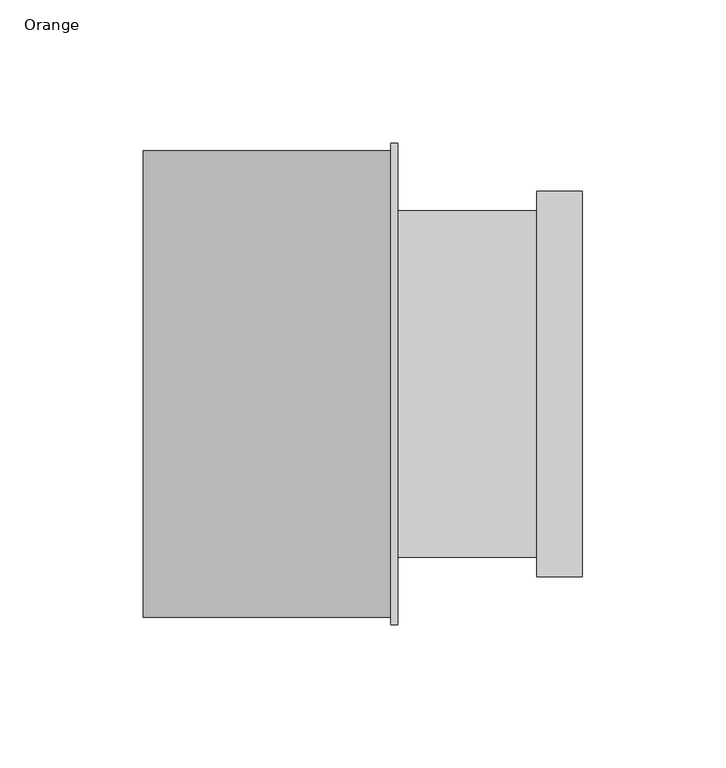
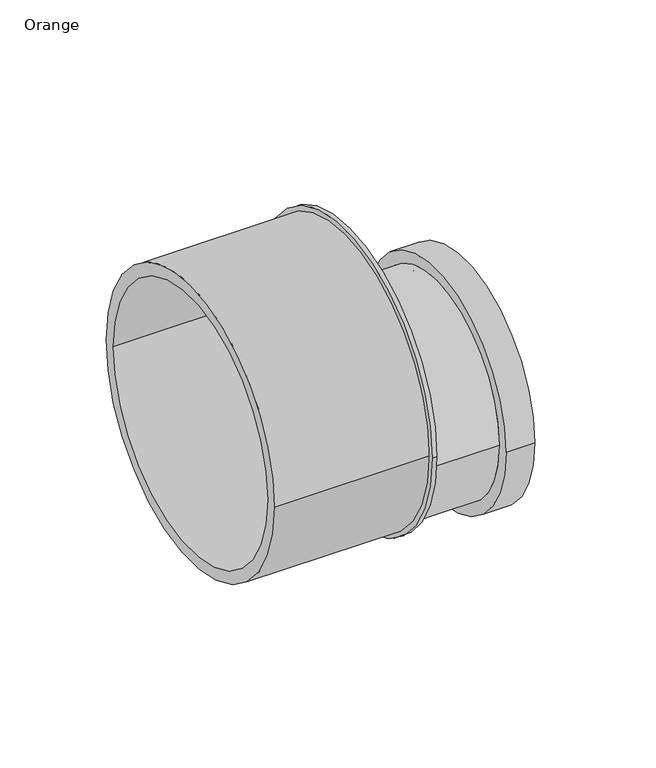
"""IFC4 building model written with IfcOpenShell, lengths in millimetres: pipe fitting geometry, AWADUKT PP Transition : Orange."""

from ifc_helpers import new_model, si_unit, point, frame, frame_2d, origin, origin_2d, place, context, project, spatial, polyline, circle_curve, trimmed, segment, composite_curve, outline, extrude, source, transform, mapped, element, save
from ifc_brep_helpers import plane_surface, cylinder_surface, revolved_surface, advanced_brep


def orange_85c0008d(model_context):
    return source(origin(), model_context, "Body", "SolidModel", [
        extrude(outline(composite_curve([segment(trimmed(circle_curve(origin_2d(), 84.0), [point((-84.0, 0.0))], [point((84.0, 0.0))], False, "CARTESIAN"), True, "CONTINUOUS"), segment(trimmed(circle_curve(origin_2d(), 84.0), [point((84.0, 0.0))], [point((-84.0, 0.0))], False, "CARTESIAN"), True, "CONTINUOUS")], self_intersect=False), holes=[composite_curve([segment(trimmed(circle_curve(frame_2d((0.0, -24.3)), 50.5), [point((-50.5, -24.3))], [point((50.5, -24.3))], True, "CARTESIAN"), True, "CONTINUOUS"), segment(trimmed(circle_curve(frame_2d((0.0, -24.3)), 50.5), [point((50.5, -24.3))], [point((-50.5, -24.3))], True, "CARTESIAN"), True, "CONTINUOUS")], self_intersect=False)]), frame((90.4, 0.0, 0.0), z_axis=(1.0, 0.0, 0.0), x_axis=(0.0, 1.0, 0.0)), (0.0, 0.0, 1.0), 2.5),
        advanced_brep(
        [(141.275, -60.5, -24.3), (141.275, 60.5, -24.3), (92.9, 60.5, -24.3), (92.9, -60.5, -24.3), (157.275, -67.3333333, -24.3), (157.275, 67.3333333, -24.3), (141.275, 67.3333333, -24.3), (141.275, -67.3333333, -24.3), (151.775, -55.0, -24.3), (151.775, 55.0, -24.3), (157.275, 55.0, -24.3), (157.275, -55.0, -24.3), (146.775, -60.5, -24.3), (146.775, 60.5, -24.3), (151.775, 60.5, -24.3), (151.775, -60.5, -24.3), (92.9, -55.0, -24.3), (92.9, 55.0, -24.3), (146.775, 55.0, -24.3), (146.775, -55.0, -24.3)],
        [
            (0, 1, circle_curve(frame((141.275, 0.0, -24.3), z_axis=(-1.0, 0.0, 0.0), x_axis=(0.0, 1.0, 0.0)), 60.5)),
            (1, 2),
            (2, 3, circle_curve(frame((92.9, 0.0, -24.3), z_axis=(1.0, 0.0, 0.0), x_axis=(0.0, 1.0, 0.0)), 60.5)),
            (3, 0),
            (4, 5, circle_curve(frame((157.275, 0.0, -24.3), z_axis=(-1.0, 0.0, 0.0), x_axis=(0.0, 1.0, 0.0)), 67.3333333)),
            (5, 6),
            (6, 7, circle_curve(frame((141.275, 0.0, -24.3), z_axis=(1.0, 0.0, 0.0), x_axis=(0.0, 1.0, 0.0)), 67.3333333)),
            (7, 4),
            (8, 9, circle_curve(frame((151.775, 0.0, -24.3), z_axis=(-1.0, 0.0, 0.0), x_axis=(0.0, 1.0, 0.0)), 55.0)),
            (9, 10),
            (10, 11, circle_curve(frame((157.275, 0.0, -24.3), z_axis=(1.0, 0.0, 0.0), x_axis=(0.0, 1.0, 0.0)), 55.0)),
            (11, 8),
            (12, 13, circle_curve(frame((146.775, 0.0, -24.3), z_axis=(-1.0, 0.0, 0.0), x_axis=(0.0, 1.0, 0.0)), 60.5)),
            (13, 14),
            (14, 15, circle_curve(frame((151.775, 0.0, -24.3), z_axis=(1.0, 0.0, 0.0), x_axis=(0.0, 1.0, 0.0)), 60.5)),
            (15, 12),
            (16, 17, circle_curve(frame((92.9, 0.0, -24.3), z_axis=(-1.0, 0.0, 0.0), x_axis=(0.0, 1.0, 0.0)), 55.0)),
            (17, 18),
            (18, 19, circle_curve(frame((146.775, 0.0, -24.3), z_axis=(1.0, 0.0, 0.0), x_axis=(0.0, 1.0, 0.0)), 55.0)),
            (19, 16),
            (2, 3, circle_curve(frame((92.9, 0.0, -24.3), z_axis=(-1.0, 0.0, 0.0), x_axis=(0.0, -1.0, 0.0)), 60.5)),
            (16, 17, circle_curve(frame((92.9, 0.0, -24.3), z_axis=(1.0, 0.0, 0.0), x_axis=(0.0, -1.0, 0.0)), 55.0)),
            (1, 0, circle_curve(frame((141.275, 0.0, -24.3), z_axis=(-1.0, 0.0, 0.0), x_axis=(0.0, -1.0, 0.0)), 60.5)),
            (6, 7, circle_curve(frame((141.275, 0.0, -24.3), z_axis=(-1.0, 0.0, 0.0), x_axis=(0.0, -1.0, 0.0)), 67.3333333)),
            (5, 4, circle_curve(frame((157.275, 0.0, -24.3), z_axis=(-1.0, 0.0, 0.0), x_axis=(0.0, -1.0, 0.0)), 67.3333333)),
            (10, 11, circle_curve(frame((157.275, 0.0, -24.3), z_axis=(-1.0, 0.0, 0.0), x_axis=(0.0, -1.0, 0.0)), 55.0)),
            (9, 8, circle_curve(frame((151.775, 0.0, -24.3), z_axis=(-1.0, 0.0, 0.0), x_axis=(0.0, -1.0, 0.0)), 55.0)),
            (14, 15, circle_curve(frame((151.775, 0.0, -24.3), z_axis=(-1.0, 0.0, 0.0), x_axis=(0.0, -1.0, 0.0)), 60.5)),
            (13, 12, circle_curve(frame((146.775, 0.0, -24.3), z_axis=(-1.0, 0.0, 0.0), x_axis=(0.0, -1.0, 0.0)), 60.5)),
            (18, 19, circle_curve(frame((146.775, 0.0, -24.3), z_axis=(-1.0, 0.0, 0.0), x_axis=(0.0, -1.0, 0.0)), 55.0)),
        ],
        [
            cylinder_surface(frame((92.9, 0.0, -24.3), z_axis=(1.0, 0.0, 0.0), x_axis=(0.0, 1.0, 0.0)), 60.5),
            cylinder_surface(frame((92.9, 0.0, -24.3), z_axis=(1.0, 0.0, 0.0), x_axis=(0.0, 1.0, 0.0)), 67.3333333),
            revolved_surface(polyline([(157.275, 55.0, -24.3), (151.775, 55.0, -24.3)]), (92.9, 0.0, -24.3), (1.0, 0.0, 0.0)),
            revolved_surface(polyline([(151.775, 60.5, -24.3), (146.775, 60.5, -24.3)]), (92.9, 0.0, -24.3), (1.0, 0.0, 0.0)),
            revolved_surface(polyline([(146.775, 55.0, -24.3), (92.9, 55.0, -24.3)]), (92.9, 0.0, -24.3), (1.0, 0.0, 0.0)),
            plane_surface(frame((92.9, 0.0, -24.3), z_axis=(-1.0, 0.0, 0.0), x_axis=(0.0, -1.0, 0.0))),
            cylinder_surface(frame((92.9, 0.0, -24.3), z_axis=(1.0, 0.0, 0.0), x_axis=(0.0, -1.0, 0.0)), 60.5),
            plane_surface(frame((141.275, 0.0, -24.3), z_axis=(-1.0, 0.0, 0.0), x_axis=(0.0, -1.0, 0.0))),
            cylinder_surface(frame((92.9, 0.0, -24.3), z_axis=(1.0, 0.0, 0.0), x_axis=(0.0, -1.0, 0.0)), 67.3333333),
            plane_surface(frame((157.275, 0.0, -24.3), z_axis=(1.0, 0.0, 0.0), x_axis=(0.0, -1.0, 0.0))),
            revolved_surface(polyline([(157.275, -55.0, -24.3), (151.775, -55.0, -24.3)]), (92.9, 0.0, -24.3), (1.0, 0.0, 0.0)),
            plane_surface(frame((151.775, 0.0, -24.3), z_axis=(-1.0, 0.0, 0.0), x_axis=(0.0, -1.0, 0.0))),
            revolved_surface(polyline([(151.775, -60.5, -24.3), (146.775, -60.5, -24.3)]), (92.9, 0.0, -24.3), (1.0, 0.0, 0.0)),
            plane_surface(frame((146.775, 0.0, -24.3), z_axis=(1.0, 0.0, 0.0), x_axis=(0.0, -1.0, 0.0))),
            revolved_surface(polyline([(146.775, -55.0, -24.3), (92.9, -55.0, -24.3)]), (92.9, 0.0, -24.3), (1.0, 0.0, 0.0)),
        ],
        [
            (0, [[1, 2, 3, 4]]),
            (1, [[5, 6, 7, 8]]),
            (2, [[9, 10, 11, 12]]),
            (3, [[13, 14, 15, 16]]),
            (4, [[17, 18, 19, 20]]),
            (5, [[21, -3], [22, -17]]),
            (6, [[23, -4, -21, -2]]),
            (7, [[24, -7], [-23, -1]]),
            (8, [[25, -8, -24, -6]]),
            (9, [[-25, -5], [26, -11]]),
            (10, [[27, -12, -26, -10]]),
            (11, [[28, -15], [-27, -9]]),
            (12, [[29, -16, -28, -14]]),
            (13, [[-29, -13], [30, -19]]),
            (14, [[-22, -20, -30, -18]]),
        ],
    ),
        extrude(outline(composite_curve([segment(trimmed(circle_curve(origin_2d(), 81.4), [point((-81.4, 0.0))], [point((81.4, 0.0))], False, "CARTESIAN"), True, "CONTINUOUS"), segment(trimmed(circle_curve(origin_2d(), 81.4), [point((81.4, 0.0))], [point((-81.4, 0.0))], False, "CARTESIAN"), True, "CONTINUOUS")], self_intersect=False), holes=[composite_curve([segment(trimmed(circle_curve(origin_2d(), 74.5), [point((74.5, 0.0))], [point((-74.5, 0.0))], True, "CARTESIAN"), True, "CONTINUOUS"), segment(trimmed(circle_curve(origin_2d(), 74.5), [point((-74.5, 0.0))], [point((74.5, 0.0))], True, "CARTESIAN"), True, "CONTINUOUS")], self_intersect=False)]), frame((4.0, 0.0, 0.0), z_axis=(1.0, 0.0, 0.0), x_axis=(0.0, 1.0, 0.0)), (0.0, 0.0, 1.0), 86.4),
    ])


if __name__ == "__main__":
    model = new_model("IFC4")
    model_context = context("Model", 3, world=origin())
    ifc_project = project(units=[si_unit("LENGTHUNIT", "METRE", prefix="MILLI")], contexts=[model_context])
    site = spatial("IfcSite", under=ifc_project)
    building = spatial("IfcBuilding", under=site)
    placement = place(None, origin())
    orange_shape = orange_85c0008d(model_context)
    element("IfcPipeFitting", 1, ObjectType="AWADUKT PP Transition : Orange", at=placement, inside=building, context=model_context, shape_type="MappedRepresentation", body=[
        mapped(orange_shape, transform((0.0, 0.0, 0.0), x_axis=(1.0, 0.0, 0.0), y_axis=(0.0, 1.0, 0.0), z_axis=(0.0, 0.0, 1.0))),
    ])
    save(model, "model.ifc")
